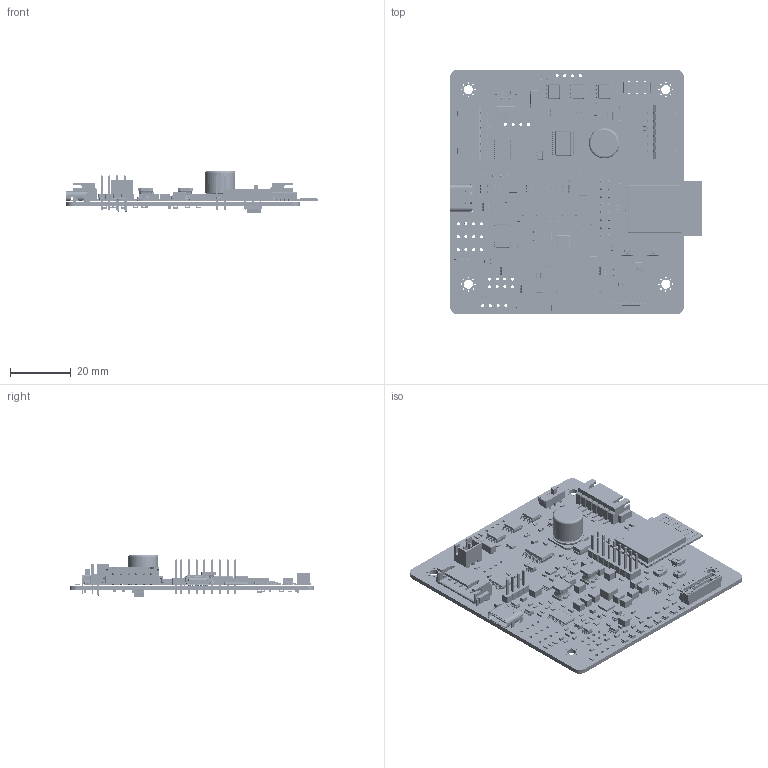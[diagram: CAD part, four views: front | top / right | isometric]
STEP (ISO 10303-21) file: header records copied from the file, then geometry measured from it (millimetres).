
FILE_DESCRIPTION(('KiCad electronic assembly'),'2;1');
FILE_NAME('aligned3s.step','2026-11-28T12:50:16',('Pcbnew'),('Kicad'), 'Open CASCADE STEP processor 7.9','KiCad to STEP converter','Unknown' );
FILE_SCHEMA(('AUTOMOTIVE_DESIGN { 1 0 10303 214 1 1 1 1 }'));
Length unit declared in the file: millimetre
Products named in the file (88): aligned3s 1; C_0603_1608Metric; TS-1088-AR02016; R_0603_1608Metric; C_1210_3225Metric; SOT-23; SOT-23-5; R_0402_1005Metric; C_0805_2012Metric; SW_CK_JS202011CQN_DPDT_Straight; CuK_JS202011CQN_DPDT_straight; SOT-23-6; LED_0603_1608Metric; CP_Elec_10x10; TSOT-23-8; TSOT-23-6; JST_GH_BM10B-GHS-TBT_1x10-1MP_P1.25mm_Vertical; JST_BM10B_GHS_TBT; WS2812B-2020; WS2812-2020; KH-TYPE-C-16P; L_Coilcraft_XAL4030-XXX; SOT-363_SC-70-6; PinHeader_1x04_P2.54mm_Vertical; PinHeader_1x04_P254mm_Vertical; D_SMB; LGA-14_3x2.5mm_P0.5mm_LayoutBorder3x4y; LGA_14_3x25mm_P05mm_LayoutBorder3x4y; SOIC-8_3.9x4.9mm_P1.27mm; 0452005.MRL; 0452005; SSOP-24_5.3x8.2mm_P0.65mm; PinHeader_2x08_P2.54mm_Vertical; PinHeader_2x08_P254mm_Vertical; TSSOP-20_4.4x6.5mm_P0.65mm; VLS5045EX-4R7M; VLS5045EX-100M-CA; ESP32-S3-WROOM-1; JST_XH_B2B-XH-A_1x02_P2.50mm_Vertical; JST_B2B_XH_A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
Assembly tree (245 placements, depth 4):
  aligned3s 1
    C_0603_1608Metric  x41
      C_0603_1608Metric
    TS-1088-AR02016  x3
      TS-1088-AR02016
    R_0603_1608Metric  x74
      R_0603_1608Metric
    C_1210_3225Metric  x15
      C_1210_3225Metric
    SOT-23  x2
      SOT-23
    SOT-23-5  x3
      SOT-23-5
    R_0402_1005Metric  x2
      R_0402_1005Metric
    C_0805_2012Metric  x5
      C_0805_2012Metric
    SW_CK_JS202011CQN_DPDT_Straight
      CuK_JS202011CQN_DPDT_straight
    SOT-23-6  x3
      SOT-23-6
    LED_0603_1608Metric
      LED_0603_1608Metric
    CP_Elec_10x10
      CP_Elec_10x10
    TSOT-23-8
      TSOT-23-8
    TSOT-23-6  x3
      TSOT-23-6
    JST_GH_BM10B-GHS-TBT_1x10-1MP_P1.25mm_Vertical
      JST_BM10B_GHS_TBT
    WS2812B-2020  x8
      WS2812-2020
    KH-TYPE-C-16P
      KH-TYPE-C-16P
    L_Coilcraft_XAL4030-XXX
      L_Coilcraft_XAL4030-XXX
    SOT-363_SC-70-6
      SOT-363_SC-70-6
    PinHeader_1x04_P2.54mm_Vertical
      PinHeader_1x04_P254mm_Vertical
    D_SMB  x2
      D_SMB
    LGA-14_3x2.5mm_P0.5mm_LayoutBorder3x4y
      LGA_14_3x25mm_P05mm_LayoutBorder3x4y
    SOIC-8_3.9x4.9mm_P1.27mm  x3
      SOIC-8_3.9x4.9mm_P1.27mm
    0452005.MRL
      0452005
    SSOP-24_5.3x8.2mm_P0.65mm
      SSOP-24_5.3x8.2mm_P0.65mm
    PinHeader_2x08_P2.54mm_Vertical
      PinHeader_2x08_P254mm_Vertical
    TSSOP-20_4.4x6.5mm_P0.65mm
      TSSOP-20_4.4x6.5mm_P0.65mm
    VLS5045EX-4R7M  x2
      VLS5045EX-100M-CA
    ESP32-S3-WROOM-1
      ESP32-S3-WROOM-1
    JST_XH_B2B-XH-A_1x02_P2.50mm_Vertical
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Bounding box: 83.03 x 80.52 x 13.83 mm (x, y, z)
Volume: 13895.9 mm3; surface area: 24023.7 mm2
Topology: 373 solids, 373 shells, 12628 faces, 32522 edges, 20850 vertices
Faces by surface type: plane 9367, cylinder 2796, bspline 382, torus 38, cone 28, sphere 16, revolution 1
Full cylindrical faces by diameter (mm): 0.2 x13, 0.4 x1, 0.5 x33, 0.7 x2, 0.9 x6, 1 x54, 3 x4, 10 x2
Entity records: 234867 total; most frequent: CARTESIAN_POINT 36737, ORIENTED_EDGE 33023, DIRECTION 31303, EDGE_CURVE 16513, LINE 13998, VECTOR 13998, VERTEX_POINT 10507, AXIS2_PLACEMENT_3D 8652
